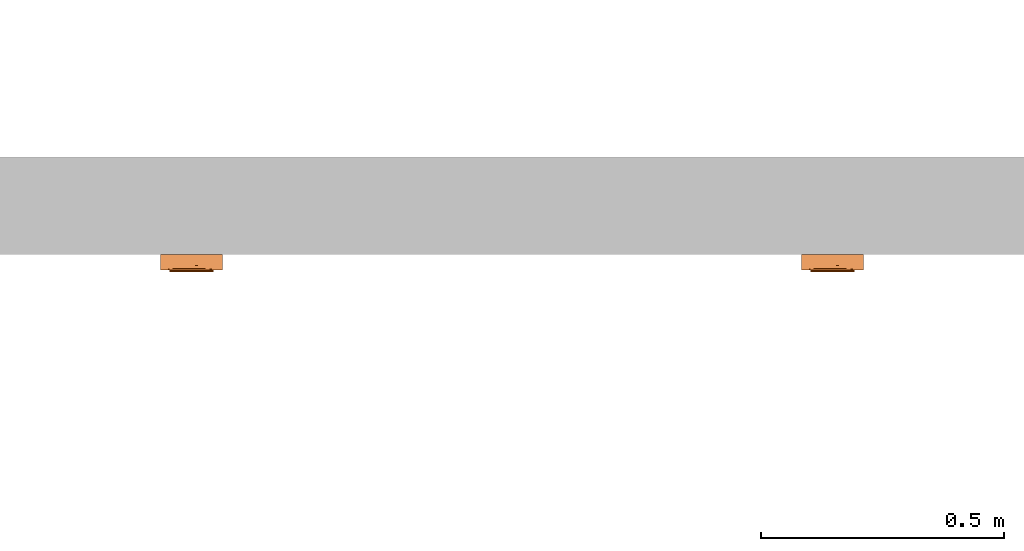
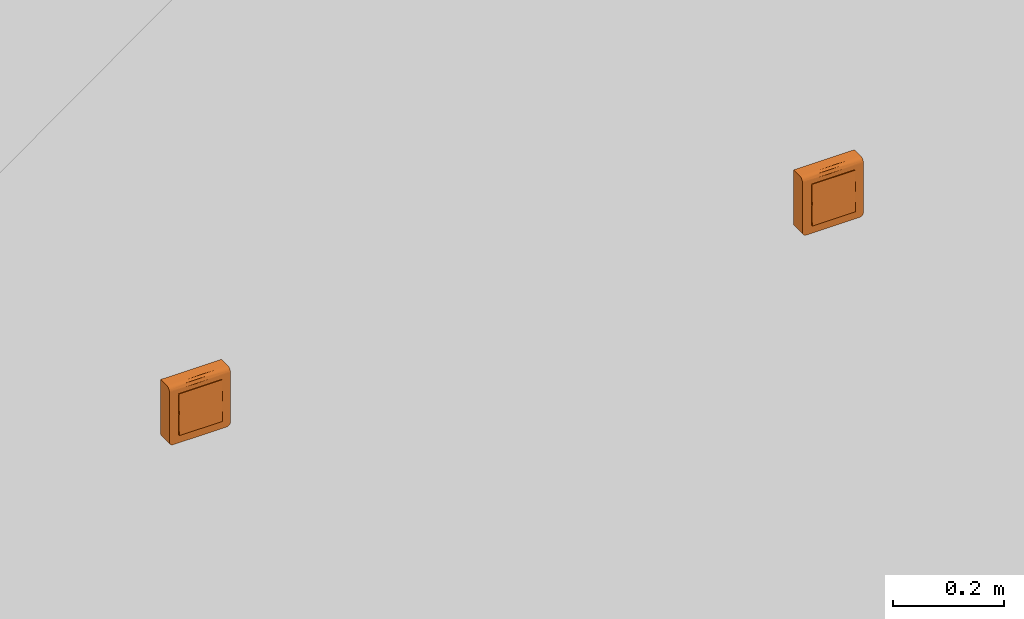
# One storey, part 142 of 197: 2 proxies.
"""IFC2X3 building model written with IfcOpenShell, lengths in metres."""

import ifcopenshell
import ifcopenshell.guid

model = None  # the IFC model being written
_history = None  # IfcOwnerHistory: only IFC2X3 demands one
_inside = {}  # id of a spatial element -> (the spatial element, [elements in it])
_under = {}  # id of a project, library or spatial element -> (it, [spatial elements below it])
_declared = {}  # id of a project -> (the project, [libraries it declares])
_typed = {}  # id of a type object -> (the type object, [elements of that type])
_made_of = {}  # id of a material, layer set ... -> (it, [elements and type objects made of it])


def new_model(schema):
    """Start an empty IFC model of exactly this schema.

    Asked for "IFC4X3", IfcOpenShell would pick the latest addendum, in which some entities
    have other attributes; the version numbers below select the first issue.
    IFC2X3 requires an IfcOwnerHistory on every rooted entity: one is made here for all.
    """
    global model, _history
    if schema == "IFC4X3":
        model = ifcopenshell.file(schema_version=(4, 3, 0, 0))
    else:
        model = ifcopenshell.file(schema=schema)
    _inside.clear()
    _under.clear()
    _declared.clear()
    _typed.clear()
    _made_of.clear()
    _history = None
    if model.schema == "IFC2X3":
        org = make("IfcOrganization", Name="unknown")
        user = make(
            "IfcPersonAndOrganization",
            ThePerson=make("IfcPerson", FamilyName="unknown"),
            TheOrganization=org,
        )
        app = make(
            "IfcApplication",
            ApplicationDeveloper=org,
            Version="unknown",
            ApplicationFullName="unknown",
            ApplicationIdentifier="unknown",
        )
        _history = make(
            "IfcOwnerHistory",
            OwningUser=user,
            OwningApplication=app,
            ChangeAction="ADDED",
            CreationDate=0,
        )
    return model


def make(cls, **values):
    """One entity of the class cls with the attributes given. An attribute that is None is left unset."""
    return model.create_entity(
        cls, **{name: value for name, value in values.items() if value is not None}
    )


def entity(cls, *values):
    """Any entity or typed value of the class cls, its attributes in the order of the schema. None: left unset."""
    e = model.create_entity(cls)
    for i, value in enumerate(values):
        if value is not None:
            e[i] = value
    return e


def rooted(cls, **values):
    """An entity with a GlobalId (a new one), such as an element, a storey or a relation."""
    return make(cls, GlobalId=ifcopenshell.guid.new(), OwnerHistory=_history, **values)


def si_unit(unit_type, name, prefix=None):
    """IfcSIUnit, for example si_unit("LENGTHUNIT", "METRE", prefix="MILLI")."""
    return make("IfcSIUnit", UnitType=unit_type, Prefix=prefix, Name=name)


def converted_unit(unit_type, name, factor, base, dimensions=None, offset=None):
    """IfcConversionBasedUnit, such as the inch: factor (a typed value) times the base unit."""
    return make(
        "IfcConversionBasedUnit"
        if offset is None
        else "IfcConversionBasedUnitWithOffset",
        ConversionOffset=offset,
        Dimensions=None
        if dimensions is None
        else entity("IfcDimensionalExponents", *dimensions),
        UnitType=unit_type,
        Name=name,
        ConversionFactor=make(
            "IfcMeasureWithUnit", ValueComponent=factor, UnitComponent=base
        ),
    )


def assignment(units):
    """IfcUnitAssignment: the units of a project."""
    return None if units is None else make("IfcUnitAssignment", Units=units)


def point(xyz):
    """IfcCartesianPoint."""
    return None if xyz is None else make("IfcCartesianPoint", Coordinates=xyz)


def direction(xyz):
    """IfcDirection."""
    return None if xyz is None else make("IfcDirection", DirectionRatios=xyz)


def frame(location, z_axis=None, x_axis=None):
    """IfcAxis2Placement3D, a coordinate frame: its origin and axes. An axis left out is left unset."""
    return make(
        "IfcAxis2Placement3D",
        Location=point(location),
        Axis=direction(z_axis),
        RefDirection=direction(x_axis),
    )


def origin():
    """The frame at (0, 0, 0) with its axes left unset."""
    return frame((0.0, 0.0, 0.0))


def place(relative_to, where):
    """IfcLocalPlacement: puts the frame where relative to a parent placement (None: the world)."""
    return make(
        "IfcLocalPlacement", PlacementRelTo=relative_to, RelativePlacement=where
    )


def context(
    kind, dimensions, precision=None, world=None, true_north=None, identifier=None
):
    """IfcGeometricRepresentationContext, for example the 3D "Model" context."""
    return make(
        "IfcGeometricRepresentationContext",
        ContextIdentifier=identifier,
        ContextType=kind,
        CoordinateSpaceDimension=dimensions,
        Precision=precision,
        WorldCoordinateSystem=world,
        TrueNorth=true_north,
    )


def subcontext(parent, identifier, kind, view, scale=None):
    """IfcGeometricRepresentationSubContext, for example "Body" below "Model"."""
    return make(
        "IfcGeometricRepresentationSubContext",
        ContextIdentifier=identifier,
        ContextType=kind,
        ParentContext=parent,
        TargetScale=scale,
        TargetView=view,
    )


def project(units=None, contexts=None):
    """IfcProject with its units and contexts."""
    return rooted(
        "IfcProject",
        Name="project",
        RepresentationContexts=contexts,
        UnitsInContext=assignment(units),
    )


def spatial(cls, under=None, at=None, **own):
    """A site, building, storey or space (cls), placed at a placement, below another one or the project."""
    s = rooted(cls, ObjectPlacement=at, **own)
    if under is not None:
        _under.setdefault(under.id(), (under, []))[1].append(s)
    return s


def faces_of(points, faces, orient=None, outer=None):
    """IfcFace entities. A face is a list of loops; a loop is a list of indices into points, from 0.

    orient and outer hold one flag for each loop. By default every Orientation is true, the
    first loop of a face is its IfcFaceOuterBound and the others are IfcFaceBound.
    """
    made = []
    for i, loops in enumerate(faces):
        bounds = []
        for j, loop in enumerate(loops):
            is_outer = j == 0 if outer is None else outer[i][j]
            bounds.append(
                make(
                    "IfcFaceOuterBound" if is_outer else "IfcFaceBound",
                    Bound=make("IfcPolyLoop", Polygon=[points[k] for k in loop]),
                    Orientation=True if orient is None else orient[i][j],
                )
            )
        made.append(make("IfcFace", Bounds=bounds))
    return made


def faceted_brep(points, faces, orient=None, outer=None, voids=None):
    """IfcFacetedBrep: a solid bounded by flat faces; with voids (closed shells), ...WithVoids."""
    shared = [point(p) for p in points]
    hull = make("IfcClosedShell", CfsFaces=faces_of(shared, faces, orient, outer))
    if voids is None:
        return make("IfcFacetedBrep", Outer=hull)
    return make(
        "IfcFacetedBrepWithVoids",
        Outer=hull,
        Voids=[
            make(cls, CfsFaces=faces_of(shared, fs, o, b)) for cls, fs, o, b in voids
        ],
    )


def shape(context_of_items, identifier, shape_type, items):
    """IfcShapeRepresentation: the items that make up one representation, for example the "Body"."""
    return make(
        "IfcShapeRepresentation",
        ContextOfItems=context_of_items,
        RepresentationIdentifier=identifier,
        RepresentationType=shape_type,
        Items=items,
    )


def source(mapping_origin, context_of_items, identifier, shape_type, items):
    """IfcRepresentationMap: a shape defined once, which mapped items show again and again."""
    return make(
        "IfcRepresentationMap",
        MappingOrigin=mapping_origin,
        MappedRepresentation=shape(context_of_items, identifier, shape_type, items),
    )


def transform(
    local_origin,
    x_axis=None,
    y_axis=None,
    z_axis=None,
    scale=None,
    scale2=None,
    scale3=None,
    uniform=True,
):
    """IfcCartesianTransformationOperator3D, or its non-uniform kind. x_axis, y_axis, z_axis: its Axis1, 2, 3."""
    if uniform:
        return make(
            "IfcCartesianTransformationOperator3D",
            Axis1=direction(x_axis),
            Axis2=direction(y_axis),
            LocalOrigin=point(local_origin),
            Scale=scale,
            Axis3=direction(z_axis),
        )
    return make(
        "IfcCartesianTransformationOperator3DnonUniform",
        Axis1=direction(x_axis),
        Axis2=direction(y_axis),
        LocalOrigin=point(local_origin),
        Scale=scale,
        Axis3=direction(z_axis),
        Scale2=scale2,
        Scale3=scale3,
    )


def mapped(mapping_source, mapping_target):
    """IfcMappedItem: shows the shape of a source again, moved by a transform."""
    return make(
        "IfcMappedItem", MappingSource=mapping_source, MappingTarget=mapping_target
    )


def material(Name=None, Category=None):
    """IfcMaterial."""
    return make("IfcMaterial", Name=Name, Category=Category)


def material_list(materials):
    """IfcMaterialList."""
    return make("IfcMaterialList", Materials=materials)


def made_of(thing, what):
    """Note that an element or type object is made of a material, layer set ...; save() writes the relation."""
    if what is not None:
        _made_of.setdefault(what.id(), (what, []))[1].append(thing)
    return thing


def type_object(cls, material=None, **own):
    """A type object (cls), such as IfcWallType, which elements share."""
    return made_of(rooted(cls, **own), material)


def type_shapes(of_type, sources):
    """Give a type object the sources (RepresentationMaps) that its elements show as mapped items."""
    of_type.RepresentationMaps = sources


def element(
    cls,
    number,
    at=None,
    inside=None,
    cuts=None,
    type_object=None,
    material=None,
    context=None,
    identifier="Body",
    shape_type=None,
    held_by="IfcProductDefinitionShape",
    body=None,
    shapes=None,
    **own,
):
    """One element of the class cls, such as IfcWall. Its Tag is "e" and its number.

    at: its placement. inside: the storey or other place that contains it. cuts: it is an
    opening in that element (IfcRelVoidsElement). A single representation is given by context,
    identifier, shape_type and body (its items); several are given by shapes. held_by: the class
    of the entity that holds the representations. save() writes the other relations.
    """
    e = rooted(cls, Tag="e%d" % number, ObjectPlacement=at, **own)
    if body is not None:
        shapes = [shape(context, identifier, shape_type, body)]
    if shapes is not None:
        e.Representation = make(held_by, Representations=shapes)
    if inside is not None:
        _inside.setdefault(inside.id(), (inside, []))[1].append(e)
    if cuts is not None:
        rooted(
            "IfcRelVoidsElement", RelatingBuildingElement=cuts, RelatedOpeningElement=e
        )
    if type_object is not None:
        _typed.setdefault(type_object.id(), (type_object, []))[1].append(e)
    return made_of(e, material)


def aggregate(whole, parts):
    """IfcRelAggregates: a whole, such as a stair, and the parts it consists of."""
    return rooted("IfcRelAggregates", RelatingObject=whole, RelatedObjects=parts)


def save(model, path):
    """Write the relations noted so far, then the file.

    IfcRelAggregates (storeys below a building ...), IfcRelContainedInSpatialStructure (elements
    in a storey), IfcRelDefinesByType, IfcRelAssociatesMaterial and IfcRelDeclares: one each for
    every whole, place, type object, material and project.
    """
    for whole, parts in _under.values():
        aggregate(whole, parts)
    for where, things in _inside.values():
        rooted(
            "IfcRelContainedInSpatialStructure",
            RelatedElements=things,
            RelatingStructure=where,
        )
    for kind, things in _typed.values():
        rooted("IfcRelDefinesByType", RelatedObjects=things, RelatingType=kind)
    for what, things in _made_of.values():
        rooted("IfcRelAssociatesMaterial", RelatedObjects=things, RelatingMaterial=what)
    for by, libraries in _declared.values():
        rooted("IfcRelDeclares", RelatingContext=by, RelatedDefinitions=libraries)
    model.write(path)


model = new_model("IFC2X3")

# Units and contexts
model_context = context("Model", 3, precision=1e-05, world=origin(), true_north=direction((6.123031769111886e-17, 1.0)))
body_context = subcontext(model_context, "Body", "Model", "MODEL_VIEW")
ifc_project = project(units=[si_unit("LENGTHUNIT", "METRE"), converted_unit("PLANEANGLEUNIT", "DEGREE", entity("IfcPlaneAngleMeasure", 0.017453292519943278), si_unit("PLANEANGLEUNIT", "RADIAN"), dimensions=[0, 0, 0, 0, 0, 0, 0]), si_unit("AREAUNIT", "SQUARE_METRE")], contexts=[model_context])

# Site, building, storey
site_placement = place(None, origin())
site = spatial("IfcSite", under=ifc_project, at=site_placement, Name="Default", CompositionType="ELEMENT")
building_placement = place(site_placement, origin())
building = spatial("IfcBuilding", under=site, at=building_placement, CompositionType="ELEMENT")
storey_placement = place(building_placement, origin())
storey = spatial("IfcBuildingStorey", under=building, at=storey_placement, Name="Niveau 0", CompositionType="ELEMENT", Elevation=0.0)

# Proxies
ifc_material_1 = material(Name="BETCE-CADRE-BLANC")
ifc_material_2 = material(Name="BETCE-DOIGT-BLANC")
ifc_material_3 = material(Name="BETCE-ENJOLIVEUR-BLANC")
ifc_material_list = material_list([ifc_material_1, ifc_material_2, ifc_material_3])
building_element_proxy_type_1 = type_object("IfcBuildingElementProxyType", Name="Tableau commande 2x4 modules saillie:8 BP", PredefinedType="NOTDEFINED", material=ifc_material_list)
shared_shape_1 = source(origin(), body_context, "Body", "Brep", [
    faceted_brep([(0.06349999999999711, -0.022999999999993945, 0.0635), (-0.06350000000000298, -0.022999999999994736, 0.0635), (-0.06350000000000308, -0.022999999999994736, -0.055499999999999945), (-0.06322740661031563, -0.022999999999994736, -0.05757055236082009), (-0.06242820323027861, -0.02299999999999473, -0.059499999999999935), (-0.06115685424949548, -0.022999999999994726, -0.06115685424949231), (-0.05950000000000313, -0.022999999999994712, -0.06242820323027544), (-0.05757055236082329, -0.0229999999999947, -0.06322740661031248), (-0.05550000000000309, -0.022999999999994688, -0.06350000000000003), (0.055499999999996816, -0.022999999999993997, -0.0635000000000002), (0.057570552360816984, -0.022999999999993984, -0.06322740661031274), (0.05949999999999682, -0.022999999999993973, -0.062428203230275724), (0.06115685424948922, -0.022999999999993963, -0.061156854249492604), (0.062428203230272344, -0.022999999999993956, -0.05950000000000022), (0.0632274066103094, -0.022999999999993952, -0.0575705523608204), (0.06349999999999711, -0.022999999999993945, -0.05550000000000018), (-0.05550000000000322, 0.0, -0.06349999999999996), (-0.05757055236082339, 0.0, -0.06322740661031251), (-0.05950000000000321, 0.0, -0.062428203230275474), (-0.06115685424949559, 0.0, -0.06115685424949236), (-0.06242820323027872, 0.0, -0.05949999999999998), (-0.06322740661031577, 0.0, -0.05757055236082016), (-0.06350000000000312, 0.0, -0.055499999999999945), (-0.06350000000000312, 0.0, 0.0635), (0.06349999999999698, 0.0, 0.0635), (0.06349999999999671, 0.0, -0.05550000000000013), (0.06322740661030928, 0.0, -0.0575705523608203), (0.06242820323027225, 0.0, -0.05950000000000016), (0.06115685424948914, 0.0, -0.061156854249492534), (0.059499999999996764, 0.0, -0.062428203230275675), (0.05757055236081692, 0.0, -0.06322740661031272), (0.055499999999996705, 0.0, -0.0635)], [[[0, 1, 2, 3, 4, 5, 6, 7, 8, 9, 10, 11, 12, 13, 14, 15]], [[16, 17, 18, 19, 20, 21, 22, 23, 24, 25, 26, 27, 28, 29, 30, 31]], [[2, 1, 23, 22]], [[9, 8, 16, 31]], [[0, 15, 25, 24]], [[1, 0, 24, 23]], [[25, 15, 14, 26]], [[26, 14, 13, 27]], [[27, 13, 12, 28]], [[29, 11, 10, 30]], [[30, 10, 9, 31]], [[28, 12, 11, 29]], [[17, 16, 8, 7]], [[18, 17, 7, 6]], [[19, 18, 6, 5]], [[20, 19, 5, 4]], [[21, 20, 4, 3]], [[22, 21, 3, 2]]]),
    faceted_brep([(0.022499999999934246, -0.022999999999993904, -0.045000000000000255), (0.022499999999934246, -0.022999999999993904, 0.0), (0.04499999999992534, -0.022999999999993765, 0.0), (0.04499999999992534, -0.022999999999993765, -0.045000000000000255), (0.022499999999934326, -0.03574999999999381, -0.045000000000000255), (0.02249999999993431, -0.033499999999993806, 0.0), (0.044999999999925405, -0.03349999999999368, 0.0), (0.04499999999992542, -0.03574999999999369, -0.045000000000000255)], [[[0, 1, 2, 3]], [[1, 0, 4, 5]], [[2, 1, 5, 6]], [[3, 2, 6, 7]], [[0, 3, 7, 4]], [[5, 4, 7, 6]]]),
    faceted_brep([(0.0, -0.022999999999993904, -0.04500000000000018), (0.0, -0.022999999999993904, 0.0), (0.02249999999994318, -0.022999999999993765, 0.0), (0.02249999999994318, -0.022999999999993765, -0.04500000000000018), (0.0, -0.03574999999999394, -0.04500000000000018), (0.0, -0.03349999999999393, 0.0), (0.022499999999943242, -0.033499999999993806, 0.0), (0.02249999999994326, -0.03574999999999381, -0.04500000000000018)], [[[0, 1, 2, 3]], [[1, 0, 4, 5]], [[2, 1, 5, 6]], [[3, 2, 6, 7]], [[0, 3, 7, 4]], [[5, 4, 7, 6]]]),
    faceted_brep([(-0.02250000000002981, -0.022999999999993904, -0.0450000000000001), (-0.02250000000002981, -0.022999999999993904, 0.0), (0.0, -0.022999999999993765, 0.0), (0.0, -0.022999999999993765, -0.0450000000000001), (-0.02250000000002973, -0.03574999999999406, -0.0450000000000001), (-0.022500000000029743, -0.03349999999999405, 0.0), (0.0, -0.033499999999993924, 0.0), (0.0, -0.03574999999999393, -0.0450000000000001)], [[[0, 1, 2, 3]], [[1, 0, 4, 5]], [[2, 1, 5, 6]], [[3, 2, 6, 7]], [[0, 3, 7, 4]], [[5, 4, 7, 6]]]),
    faceted_brep([(-0.04500000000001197, -0.022999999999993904, -0.045000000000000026), (-0.04500000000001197, -0.022999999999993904, 0.0), (-0.022500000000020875, -0.022999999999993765, 0.0), (-0.022500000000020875, -0.022999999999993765, -0.045000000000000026), (-0.04500000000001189, -0.03574999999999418, -0.045000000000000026), (-0.0450000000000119, -0.03349999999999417, 0.0), (-0.02250000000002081, -0.03349999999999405, 0.0), (-0.022500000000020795, -0.03574999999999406, -0.045000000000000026)], [[[0, 1, 2, 3]], [[1, 0, 4, 5]], [[2, 1, 5, 6]], [[3, 2, 6, 7]], [[0, 3, 7, 4]], [[5, 4, 7, 6]]]),
    faceted_brep([(0.02249999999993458, -0.03349999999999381, 0.04499999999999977), (0.022499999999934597, -0.03574999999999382, 0.0), (0.04499999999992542, -0.0357499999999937, 0.0), (0.044999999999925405, -0.03349999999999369, 0.04499999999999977), (0.022499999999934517, -0.022999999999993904, 0.0), (0.022499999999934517, -0.022999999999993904, 0.04499999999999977), (0.04499999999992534, -0.022999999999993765, 0.04499999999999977), (0.04499999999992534, -0.022999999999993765, 0.0)], [[[0, 1, 2, 3]], [[4, 5, 6, 7]], [[5, 4, 1, 0]], [[6, 5, 0, 3]], [[7, 6, 3, 2]], [[4, 7, 2, 1]]]),
    faceted_brep([(0.0, -0.03349999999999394, 0.044999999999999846), (0.0, -0.035749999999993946, 0.0), (0.02249999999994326, -0.03574999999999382, 0.0), (0.022499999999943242, -0.03349999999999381, 0.044999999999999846), (0.0, -0.022999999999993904, 0.0), (0.0, -0.022999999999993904, 0.044999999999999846), (0.02249999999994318, -0.022999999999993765, 0.04499999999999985), (0.02249999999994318, -0.022999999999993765, 0.0)], [[[0, 1, 2, 3]], [[4, 5, 6, 7]], [[5, 4, 1, 0]], [[6, 5, 0, 3]], [[7, 6, 3, 2]], [[4, 7, 2, 1]]]),
    faceted_brep([(-0.022500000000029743, -0.03349999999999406, 0.04499999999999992), (-0.02250000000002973, -0.03574999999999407, 0.0), (0.0, -0.03574999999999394, 0.0), (0.0, -0.03349999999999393, 0.04499999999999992), (-0.02250000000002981, -0.022999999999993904, 0.0), (-0.02250000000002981, -0.022999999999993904, 0.04499999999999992), (0.0, -0.022999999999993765, 0.04499999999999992), (0.0, -0.022999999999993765, 0.0)], [[[0, 1, 2, 3]], [[4, 5, 6, 7]], [[5, 4, 1, 0]], [[6, 5, 0, 3]], [[7, 6, 3, 2]], [[4, 7, 2, 1]]]),
    faceted_brep([(-0.04500000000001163, -0.03349999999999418, 0.045), (-0.045000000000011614, -0.03574999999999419, 0.0), (-0.022500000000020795, -0.035749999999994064, 0.0), (-0.02250000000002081, -0.03349999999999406, 0.045), (-0.0450000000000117, -0.022999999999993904, 0.0), (-0.0450000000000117, -0.022999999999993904, 0.045), (-0.022500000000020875, -0.022999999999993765, 0.045000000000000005), (-0.022500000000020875, -0.022999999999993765, 0.0)], [[[0, 1, 2, 3]], [[4, 5, 6, 7]], [[5, 4, 1, 0]], [[6, 5, 0, 3]], [[7, 6, 3, 2]], [[4, 7, 2, 1]]]),
    faceted_brep([(0.06349999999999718, -0.03199999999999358, -0.055500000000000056), (0.063499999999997, -0.03199999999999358, 0.05450000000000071), (0.04499999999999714, -0.03199999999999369, -0.045000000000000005), (0.05549999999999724, -0.03199999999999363, -0.06350000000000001), (0.057570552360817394, -0.03199999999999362, -0.06322740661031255), (0.06322740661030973, -0.03199999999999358, -0.05757055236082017), (0.04499999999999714, -0.03199999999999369, 0.045), (-0.04500000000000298, -0.031999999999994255, 0.045000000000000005), (-0.011124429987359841, -0.03199999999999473, 0.054500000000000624), (-0.06350000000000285, -0.03199999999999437, 0.05450000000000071), (-0.04500000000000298, -0.031999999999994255, -0.045000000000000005), (-0.06350000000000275, -0.03199999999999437, -0.05550000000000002), (-0.05550000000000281, -0.03199999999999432, -0.06350000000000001), (-0.05757055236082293, -0.03199999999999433, -0.06322740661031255), (-0.06322740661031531, -0.031999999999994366, -0.05757055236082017), (-0.05950000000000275, -0.031999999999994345, -0.062428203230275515), (-0.06242820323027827, -0.03199999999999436, -0.05950000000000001), (-0.06115685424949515, -0.03199999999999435, -0.06115685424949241), (0.05949999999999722, -0.0319999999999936, -0.062428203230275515), (0.062428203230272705, -0.03199999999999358, -0.05949999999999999), (0.06115685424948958, -0.031999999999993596, -0.061156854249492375), (-0.06350000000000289, -0.02299999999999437, -0.05550000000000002), (-0.06350000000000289, -0.02299999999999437, 0.06350000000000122), (-0.04500000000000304, -0.02299999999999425, 0.045000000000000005), (-0.04500000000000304, -0.02299999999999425, -0.045000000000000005), (-0.05550000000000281, -0.02299999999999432, -0.06350000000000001), (-0.06322740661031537, -0.022999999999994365, -0.05757055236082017), (0.04499999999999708, -0.022999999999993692, 0.045000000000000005), (0.011124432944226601, -0.022999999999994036, 0.06350000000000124), (0.06349999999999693, -0.022999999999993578, 0.0635), (0.06349999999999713, -0.022999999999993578, -0.05550000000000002), (0.04499999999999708, -0.022999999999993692, -0.045000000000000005), (0.05549999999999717, -0.02299999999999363, -0.06350000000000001), (0.06322740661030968, -0.022999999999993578, -0.05757055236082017), (0.05757055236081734, -0.022999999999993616, -0.06322740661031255), (0.06242820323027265, -0.022999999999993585, -0.05949999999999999), (0.05949999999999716, -0.022999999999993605, -0.062428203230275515), (0.06115685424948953, -0.02299999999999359, -0.061156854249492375), (-0.05757055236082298, -0.02299999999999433, -0.06322740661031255), (-0.062428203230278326, -0.022999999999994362, -0.05950000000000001), (-0.05950000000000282, -0.022999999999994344, -0.062428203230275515), (-0.0611568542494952, -0.02299999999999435, -0.06115685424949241), (0.06349999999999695, -0.025329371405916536, 0.06319333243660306), (0.06349999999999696, -0.02749999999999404, 0.06229422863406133), (0.06349999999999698, -0.029363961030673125, 0.060863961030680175), (0.06349999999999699, -0.03079422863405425, 0.05900000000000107), (0.06349999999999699, -0.03169333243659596, 0.05682937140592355), (-0.06350000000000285, -0.03169333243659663, 0.0568293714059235), (-0.06350000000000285, -0.030794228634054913, 0.059000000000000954), (-0.06350000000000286, -0.029363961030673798, 0.06086396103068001), (-0.06350000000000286, -0.027499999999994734, 0.062294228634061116), (-0.06350000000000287, -0.025329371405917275, 0.06319333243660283), (-0.010857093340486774, -0.029120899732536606, 0.06109807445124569)], [[[0, 1, 2]], [[3, 0, 2]], [[0, 3, 4]], [[5, 0, 4]], [[2, 1, 6]], [[1, 7, 6]], [[7, 1, 8]], [[7, 8, 9]], [[10, 7, 9]], [[11, 10, 9]], [[12, 10, 11]], [[12, 11, 13]], [[13, 11, 14]], [[15, 13, 14]], [[16, 15, 14]], [[15, 16, 17]], [[10, 12, 3]], [[2, 10, 3]], [[5, 4, 18]], [[5, 18, 19]], [[20, 19, 18]], [[21, 22, 23]], [[24, 21, 23]], [[25, 21, 24]], [[26, 21, 25]], [[22, 27, 23]], [[27, 22, 28]], [[27, 28, 29]], [[30, 27, 29]], [[31, 27, 30]], [[32, 31, 30]], [[32, 30, 33]], [[32, 33, 34]], [[33, 35, 34]], [[35, 36, 34]], [[36, 35, 37]], [[31, 32, 25]], [[26, 25, 38]], [[24, 31, 25]], [[39, 26, 38]], [[39, 38, 40]], [[41, 39, 40]], [[1, 0, 30, 29, 42, 43, 44, 45, 46]], [[33, 30, 0, 5]], [[35, 33, 5, 19]], [[37, 35, 19, 20]], [[36, 37, 20, 18]], [[34, 36, 18, 4]], [[32, 34, 4, 3]], [[25, 32, 3, 12]], [[38, 25, 12, 13]], [[40, 38, 13, 15]], [[41, 40, 15, 17]], [[39, 41, 17, 16]], [[26, 39, 16, 14]], [[21, 26, 14, 11]], [[22, 21, 11, 9, 47, 48, 49, 50, 51]], [[24, 23, 7, 10]], [[31, 24, 10, 2]], [[27, 31, 2, 6]], [[23, 27, 6, 7]], [[52, 8, 45]], [[47, 9, 8]], [[1, 46, 8]], [[44, 52, 45]], [[46, 45, 8]], [[50, 52, 51]], [[48, 47, 8]], [[28, 52, 43]], [[48, 52, 49]], [[42, 29, 28]], [[28, 22, 51]], [[48, 8, 52]], [[28, 43, 42]], [[44, 43, 52]], [[52, 50, 49]], [[52, 28, 51]]]),
])
type_shapes(building_element_proxy_type_1, [shared_shape_1])
proxy_1_placement = place(storey_placement, frame((-366.5047796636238, 116.01635778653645, 1.1)))
element("IfcBuildingElementProxy", 1, at=proxy_1_placement, inside=storey, type_object=building_element_proxy_type_1, material=ifc_material_list, Name="Tableau commande 2x4 modules saillie:8 BP", ObjectType="Tableau commande 2x4 modules saillie:8 BP", context=body_context, shape_type="MappedRepresentation", body=[
    mapped(shared_shape_1, transform((0.0, 0.0, 0.0), scale=1.0)),
])
building_element_proxy_type_2 = type_object("IfcBuildingElementProxyType", Name="Tableau commande 2x4 modules saillie:8 SA", PredefinedType="NOTDEFINED", material=ifc_material_list)
shared_shape_2 = source(origin(), body_context, "Body", "Brep", [
    faceted_brep([(0.06349999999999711, -0.022999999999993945, 0.0635), (-0.06350000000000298, -0.022999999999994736, 0.0635), (-0.06350000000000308, -0.022999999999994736, -0.055499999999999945), (-0.06322740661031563, -0.022999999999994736, -0.05757055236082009), (-0.06242820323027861, -0.02299999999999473, -0.059499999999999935), (-0.06115685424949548, -0.022999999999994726, -0.06115685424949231), (-0.05950000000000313, -0.022999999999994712, -0.06242820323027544), (-0.05757055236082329, -0.0229999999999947, -0.06322740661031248), (-0.05550000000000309, -0.022999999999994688, -0.06350000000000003), (0.055499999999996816, -0.022999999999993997, -0.0635000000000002), (0.057570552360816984, -0.022999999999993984, -0.06322740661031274), (0.05949999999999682, -0.022999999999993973, -0.062428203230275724), (0.06115685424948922, -0.022999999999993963, -0.061156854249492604), (0.062428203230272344, -0.022999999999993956, -0.05950000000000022), (0.0632274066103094, -0.022999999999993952, -0.0575705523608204), (0.06349999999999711, -0.022999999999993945, -0.05550000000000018), (-0.05550000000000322, 0.0, -0.06349999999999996), (-0.05757055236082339, 0.0, -0.06322740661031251), (-0.05950000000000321, 0.0, -0.062428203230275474), (-0.06115685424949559, 0.0, -0.06115685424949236), (-0.06242820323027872, 0.0, -0.05949999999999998), (-0.06322740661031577, 0.0, -0.05757055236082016), (-0.06350000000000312, 0.0, -0.055499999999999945), (-0.06350000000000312, 0.0, 0.0635), (0.06349999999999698, 0.0, 0.0635), (0.06349999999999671, 0.0, -0.05550000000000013), (0.06322740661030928, 0.0, -0.0575705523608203), (0.06242820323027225, 0.0, -0.05950000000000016), (0.06115685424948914, 0.0, -0.061156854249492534), (0.059499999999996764, 0.0, -0.062428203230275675), (0.05757055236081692, 0.0, -0.06322740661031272), (0.055499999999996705, 0.0, -0.0635)], [[[0, 1, 2, 3, 4, 5, 6, 7, 8, 9, 10, 11, 12, 13, 14, 15]], [[16, 17, 18, 19, 20, 21, 22, 23, 24, 25, 26, 27, 28, 29, 30, 31]], [[2, 1, 23, 22]], [[9, 8, 16, 31]], [[0, 15, 25, 24]], [[1, 0, 24, 23]], [[25, 15, 14, 26]], [[26, 14, 13, 27]], [[27, 13, 12, 28]], [[29, 11, 10, 30]], [[30, 10, 9, 31]], [[28, 12, 11, 29]], [[17, 16, 8, 7]], [[18, 17, 7, 6]], [[19, 18, 6, 5]], [[20, 19, 5, 4]], [[21, 20, 4, 3]], [[22, 21, 3, 2]]]),
    faceted_brep([(0.022499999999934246, -0.022999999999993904, -0.045000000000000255), (0.022499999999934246, -0.022999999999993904, 0.0), (0.04499999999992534, -0.022999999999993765, 0.0), (0.04499999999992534, -0.022999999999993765, -0.045000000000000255), (0.022499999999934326, -0.03574999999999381, -0.045000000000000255), (0.02249999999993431, -0.033499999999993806, 0.0), (0.044999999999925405, -0.03349999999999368, 0.0), (0.04499999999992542, -0.03574999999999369, -0.045000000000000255)], [[[0, 1, 2, 3]], [[1, 0, 4, 5]], [[2, 1, 5, 6]], [[3, 2, 6, 7]], [[0, 3, 7, 4]], [[5, 4, 7, 6]]]),
    faceted_brep([(0.0, -0.022999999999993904, -0.04500000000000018), (0.0, -0.022999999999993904, 0.0), (0.02249999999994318, -0.022999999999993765, 0.0), (0.02249999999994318, -0.022999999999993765, -0.04500000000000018), (0.0, -0.03574999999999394, -0.04500000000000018), (0.0, -0.03349999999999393, 0.0), (0.022499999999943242, -0.033499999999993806, 0.0), (0.02249999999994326, -0.03574999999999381, -0.04500000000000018)], [[[0, 1, 2, 3]], [[1, 0, 4, 5]], [[2, 1, 5, 6]], [[3, 2, 6, 7]], [[0, 3, 7, 4]], [[5, 4, 7, 6]]]),
    faceted_brep([(-0.02250000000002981, -0.022999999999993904, -0.0450000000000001), (-0.02250000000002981, -0.022999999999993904, 0.0), (0.0, -0.022999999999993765, 0.0), (0.0, -0.022999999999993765, -0.0450000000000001), (-0.02250000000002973, -0.03574999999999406, -0.0450000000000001), (-0.022500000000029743, -0.03349999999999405, 0.0), (0.0, -0.033499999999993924, 0.0), (0.0, -0.03574999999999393, -0.0450000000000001)], [[[0, 1, 2, 3]], [[1, 0, 4, 5]], [[2, 1, 5, 6]], [[3, 2, 6, 7]], [[0, 3, 7, 4]], [[5, 4, 7, 6]]]),
    faceted_brep([(-0.04500000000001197, -0.022999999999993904, -0.045000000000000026), (-0.04500000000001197, -0.022999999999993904, 0.0), (-0.022500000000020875, -0.022999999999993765, 0.0), (-0.022500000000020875, -0.022999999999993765, -0.045000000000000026), (-0.04500000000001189, -0.03574999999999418, -0.045000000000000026), (-0.0450000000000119, -0.03349999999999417, 0.0), (-0.02250000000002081, -0.03349999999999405, 0.0), (-0.022500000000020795, -0.03574999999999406, -0.045000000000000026)], [[[0, 1, 2, 3]], [[1, 0, 4, 5]], [[2, 1, 5, 6]], [[3, 2, 6, 7]], [[0, 3, 7, 4]], [[5, 4, 7, 6]]]),
    faceted_brep([(0.02249999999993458, -0.03349999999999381, 0.04499999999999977), (0.022499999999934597, -0.03574999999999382, 0.0), (0.04499999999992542, -0.0357499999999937, 0.0), (0.044999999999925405, -0.03349999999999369, 0.04499999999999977), (0.022499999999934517, -0.022999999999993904, 0.0), (0.022499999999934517, -0.022999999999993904, 0.04499999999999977), (0.04499999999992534, -0.022999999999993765, 0.04499999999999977), (0.04499999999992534, -0.022999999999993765, 0.0)], [[[0, 1, 2, 3]], [[4, 5, 6, 7]], [[5, 4, 1, 0]], [[6, 5, 0, 3]], [[7, 6, 3, 2]], [[4, 7, 2, 1]]]),
    faceted_brep([(0.0, -0.03349999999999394, 0.044999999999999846), (0.0, -0.035749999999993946, 0.0), (0.02249999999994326, -0.03574999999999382, 0.0), (0.022499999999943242, -0.03349999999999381, 0.044999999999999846), (0.0, -0.022999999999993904, 0.0), (0.0, -0.022999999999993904, 0.044999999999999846), (0.02249999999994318, -0.022999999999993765, 0.04499999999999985), (0.02249999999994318, -0.022999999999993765, 0.0)], [[[0, 1, 2, 3]], [[4, 5, 6, 7]], [[5, 4, 1, 0]], [[6, 5, 0, 3]], [[7, 6, 3, 2]], [[4, 7, 2, 1]]]),
    faceted_brep([(-0.022500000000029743, -0.03349999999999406, 0.04499999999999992), (-0.02250000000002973, -0.03574999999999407, 0.0), (0.0, -0.03574999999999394, 0.0), (0.0, -0.03349999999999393, 0.04499999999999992), (-0.02250000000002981, -0.022999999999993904, 0.0), (-0.02250000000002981, -0.022999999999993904, 0.04499999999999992), (0.0, -0.022999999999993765, 0.04499999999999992), (0.0, -0.022999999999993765, 0.0)], [[[0, 1, 2, 3]], [[4, 5, 6, 7]], [[5, 4, 1, 0]], [[6, 5, 0, 3]], [[7, 6, 3, 2]], [[4, 7, 2, 1]]]),
    faceted_brep([(-0.04500000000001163, -0.03349999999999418, 0.045), (-0.045000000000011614, -0.03574999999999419, 0.0), (-0.022500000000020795, -0.035749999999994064, 0.0), (-0.02250000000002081, -0.03349999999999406, 0.045), (-0.0450000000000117, -0.022999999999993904, 0.0), (-0.0450000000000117, -0.022999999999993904, 0.045), (-0.022500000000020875, -0.022999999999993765, 0.045000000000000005), (-0.022500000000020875, -0.022999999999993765, 0.0)], [[[0, 1, 2, 3]], [[4, 5, 6, 7]], [[5, 4, 1, 0]], [[6, 5, 0, 3]], [[7, 6, 3, 2]], [[4, 7, 2, 1]]]),
    faceted_brep([(0.06349999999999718, -0.03199999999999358, -0.055500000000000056), (0.063499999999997, -0.03199999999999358, 0.05450000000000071), (0.04499999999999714, -0.03199999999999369, -0.045000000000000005), (0.05549999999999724, -0.03199999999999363, -0.06350000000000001), (0.057570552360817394, -0.03199999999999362, -0.06322740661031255), (0.06322740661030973, -0.03199999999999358, -0.05757055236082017), (0.04499999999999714, -0.03199999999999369, 0.045), (-0.04500000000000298, -0.031999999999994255, 0.045000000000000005), (-0.011124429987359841, -0.03199999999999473, 0.054500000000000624), (-0.06350000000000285, -0.03199999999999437, 0.05450000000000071), (-0.04500000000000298, -0.031999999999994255, -0.045000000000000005), (-0.06350000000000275, -0.03199999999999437, -0.05550000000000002), (-0.05550000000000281, -0.03199999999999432, -0.06350000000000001), (-0.05757055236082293, -0.03199999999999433, -0.06322740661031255), (-0.06322740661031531, -0.031999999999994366, -0.05757055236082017), (-0.05950000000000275, -0.031999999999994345, -0.062428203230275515), (-0.06242820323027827, -0.03199999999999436, -0.05950000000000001), (-0.06115685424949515, -0.03199999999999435, -0.06115685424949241), (0.05949999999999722, -0.0319999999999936, -0.062428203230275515), (0.062428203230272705, -0.03199999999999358, -0.05949999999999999), (0.06115685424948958, -0.031999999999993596, -0.061156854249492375), (-0.06350000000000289, -0.02299999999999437, -0.05550000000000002), (-0.06350000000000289, -0.02299999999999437, 0.06350000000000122), (-0.04500000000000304, -0.02299999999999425, 0.045000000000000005), (-0.04500000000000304, -0.02299999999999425, -0.045000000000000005), (-0.05550000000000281, -0.02299999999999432, -0.06350000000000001), (-0.06322740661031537, -0.022999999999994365, -0.05757055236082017), (0.04499999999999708, -0.022999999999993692, 0.045000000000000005), (0.011124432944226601, -0.022999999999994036, 0.06350000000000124), (0.06349999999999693, -0.022999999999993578, 0.0635), (0.06349999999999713, -0.022999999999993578, -0.05550000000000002), (0.04499999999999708, -0.022999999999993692, -0.045000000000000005), (0.05549999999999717, -0.02299999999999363, -0.06350000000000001), (0.06322740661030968, -0.022999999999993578, -0.05757055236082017), (0.05757055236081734, -0.022999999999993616, -0.06322740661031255), (0.06242820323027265, -0.022999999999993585, -0.05949999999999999), (0.05949999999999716, -0.022999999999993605, -0.062428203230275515), (0.06115685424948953, -0.02299999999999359, -0.061156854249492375), (-0.05757055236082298, -0.02299999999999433, -0.06322740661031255), (-0.062428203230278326, -0.022999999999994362, -0.05950000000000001), (-0.05950000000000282, -0.022999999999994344, -0.062428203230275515), (-0.0611568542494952, -0.02299999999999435, -0.06115685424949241), (0.06349999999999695, -0.025329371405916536, 0.06319333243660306), (0.06349999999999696, -0.02749999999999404, 0.06229422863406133), (0.06349999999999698, -0.029363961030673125, 0.060863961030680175), (0.06349999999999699, -0.03079422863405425, 0.05900000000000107), (0.06349999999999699, -0.03169333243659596, 0.05682937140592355), (-0.06350000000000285, -0.03169333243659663, 0.0568293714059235), (-0.06350000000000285, -0.030794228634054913, 0.059000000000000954), (-0.06350000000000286, -0.029363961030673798, 0.06086396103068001), (-0.06350000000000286, -0.027499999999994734, 0.062294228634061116), (-0.06350000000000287, -0.025329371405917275, 0.06319333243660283), (-0.010857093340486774, -0.029120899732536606, 0.06109807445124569)], [[[0, 1, 2]], [[3, 0, 2]], [[0, 3, 4]], [[5, 0, 4]], [[2, 1, 6]], [[1, 7, 6]], [[7, 1, 8]], [[7, 8, 9]], [[10, 7, 9]], [[11, 10, 9]], [[12, 10, 11]], [[12, 11, 13]], [[13, 11, 14]], [[15, 13, 14]], [[16, 15, 14]], [[15, 16, 17]], [[10, 12, 3]], [[2, 10, 3]], [[5, 4, 18]], [[5, 18, 19]], [[20, 19, 18]], [[21, 22, 23]], [[24, 21, 23]], [[25, 21, 24]], [[26, 21, 25]], [[22, 27, 23]], [[27, 22, 28]], [[27, 28, 29]], [[30, 27, 29]], [[31, 27, 30]], [[32, 31, 30]], [[32, 30, 33]], [[32, 33, 34]], [[33, 35, 34]], [[35, 36, 34]], [[36, 35, 37]], [[31, 32, 25]], [[26, 25, 38]], [[24, 31, 25]], [[39, 26, 38]], [[39, 38, 40]], [[41, 39, 40]], [[1, 0, 30, 29, 42, 43, 44, 45, 46]], [[33, 30, 0, 5]], [[35, 33, 5, 19]], [[37, 35, 19, 20]], [[36, 37, 20, 18]], [[34, 36, 18, 4]], [[32, 34, 4, 3]], [[25, 32, 3, 12]], [[38, 25, 12, 13]], [[40, 38, 13, 15]], [[41, 40, 15, 17]], [[39, 41, 17, 16]], [[26, 39, 16, 14]], [[21, 26, 14, 11]], [[22, 21, 11, 9, 47, 48, 49, 50, 51]], [[24, 23, 7, 10]], [[31, 24, 10, 2]], [[27, 31, 2, 6]], [[23, 27, 6, 7]], [[52, 8, 45]], [[47, 9, 8]], [[1, 46, 8]], [[44, 52, 45]], [[46, 45, 8]], [[50, 52, 51]], [[48, 47, 8]], [[28, 52, 43]], [[48, 52, 49]], [[42, 29, 28]], [[28, 22, 51]], [[48, 8, 52]], [[28, 43, 42]], [[44, 43, 52]], [[52, 50, 49]], [[52, 28, 51]]]),
])
type_shapes(building_element_proxy_type_2, [shared_shape_2])
proxy_2_placement = place(storey_placement, frame((-365.1867796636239, 116.01635778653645, 1.1)))
element("IfcBuildingElementProxy", 2, at=proxy_2_placement, inside=storey, type_object=building_element_proxy_type_2, material=ifc_material_list, Name="Tableau commande 2x4 modules saillie:8 SA", ObjectType="Tableau commande 2x4 modules saillie:8 SA", context=body_context, shape_type="MappedRepresentation", body=[
    mapped(shared_shape_2, transform((0.0, 0.0, 0.0), scale=1.0)),
])

save(model, "model.ifc")
